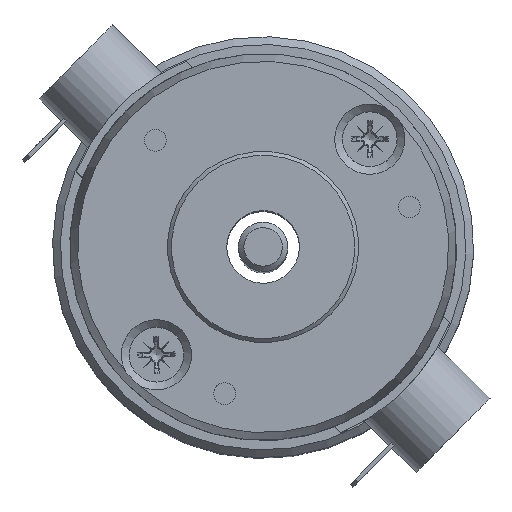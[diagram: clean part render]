
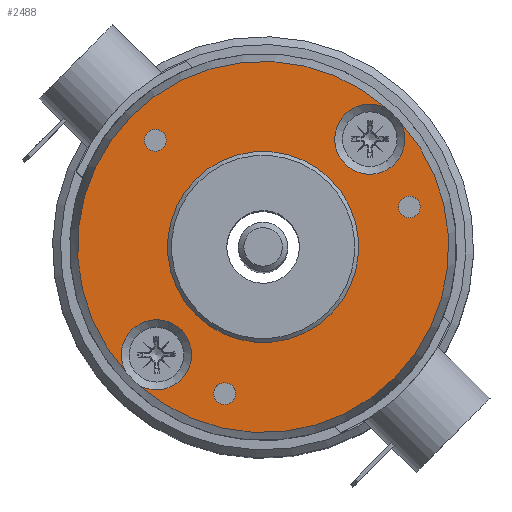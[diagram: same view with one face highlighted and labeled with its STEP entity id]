
A CAD part, top view. The second image highlights one B-rep face of the part: STEP entity #2488.
In plain terms, the highlighted planar face has unit normal (0, 0, 1).
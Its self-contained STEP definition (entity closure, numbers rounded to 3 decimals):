
#136=FACE_BOUND('',#767,.T.);
#137=FACE_BOUND('',#768,.T.);
#138=FACE_BOUND('',#769,.T.);
#139=FACE_BOUND('',#770,.T.);
#618=FACE_OUTER_BOUND('',#766,.T.);
#766=EDGE_LOOP('',(#1723,#1724,#1725,#1726));
#767=EDGE_LOOP('',(#1727,#1728));
#768=EDGE_LOOP('',(#1729,#1730));
#769=EDGE_LOOP('',(#1731,#1732));
#770=EDGE_LOOP('',(#1733));
#950=CIRCLE('',#2903,1.4);
#951=CIRCLE('',#2904,1.4);
#952=CIRCLE('',#2906,1.4);
#953=CIRCLE('',#2907,1.4);
#954=CIRCLE('',#2909,1.4);
#955=CIRCLE('',#2910,1.4);
#957=CIRCLE('',#2913,4.5);
#960=CIRCLE('',#2918,23.8);
#961=CIRCLE('',#2919,4.5);
#962=CIRCLE('',#2920,23.8);
#963=CIRCLE('',#2921,12.25);
#1088=VERTEX_POINT('',#4028);
#1089=VERTEX_POINT('',#4030);
#1090=VERTEX_POINT('',#4034);
#1091=VERTEX_POINT('',#4036);
#1092=VERTEX_POINT('',#4040);
#1093=VERTEX_POINT('',#4042);
#1097=VERTEX_POINT('',#4051);
#1098=VERTEX_POINT('',#4056);
#1100=VERTEX_POINT('',#4068);
#1101=VERTEX_POINT('',#4070);
#1102=VERTEX_POINT('',#4073);
#1332=EDGE_CURVE('',#1089,#1088,#950,.T.);
#1333=EDGE_CURVE('',#1088,#1089,#951,.T.);
#1335=EDGE_CURVE('',#1091,#1090,#952,.T.);
#1336=EDGE_CURVE('',#1090,#1091,#953,.T.);
#1338=EDGE_CURVE('',#1093,#1092,#954,.T.);
#1339=EDGE_CURVE('',#1092,#1093,#955,.T.);
#1343=EDGE_CURVE('',#1098,#1097,#957,.T.);
#1348=EDGE_CURVE('',#1100,#1097,#960,.T.);
#1349=EDGE_CURVE('',#1100,#1101,#961,.T.);
#1350=EDGE_CURVE('',#1098,#1101,#962,.T.);
#1351=EDGE_CURVE('',#1102,#1102,#963,.T.);
#1723=ORIENTED_EDGE('',*,*,#1343,.T.);
#1724=ORIENTED_EDGE('',*,*,#1348,.F.);
#1725=ORIENTED_EDGE('',*,*,#1349,.T.);
#1726=ORIENTED_EDGE('',*,*,#1350,.F.);
#1727=ORIENTED_EDGE('',*,*,#1332,.T.);
#1728=ORIENTED_EDGE('',*,*,#1333,.T.);
#1729=ORIENTED_EDGE('',*,*,#1335,.T.);
#1730=ORIENTED_EDGE('',*,*,#1336,.T.);
#1731=ORIENTED_EDGE('',*,*,#1338,.T.);
#1732=ORIENTED_EDGE('',*,*,#1339,.T.);
#1733=ORIENTED_EDGE('',*,*,#1351,.T.);
#2402=PLANE('',#2917);
#2488=ADVANCED_FACE('',(#618,#136,#137,#138,#139),#2402,.F.);
#2903=AXIS2_PLACEMENT_3D('',#4031,#3245,#3246);
#2904=AXIS2_PLACEMENT_3D('',#4032,#3247,#3248);
#2906=AXIS2_PLACEMENT_3D('',#4037,#3252,#3253);
#2907=AXIS2_PLACEMENT_3D('',#4038,#3254,#3255);
#2909=AXIS2_PLACEMENT_3D('',#4043,#3259,#3260);
#2910=AXIS2_PLACEMENT_3D('',#4044,#3261,#3262);
#2913=AXIS2_PLACEMENT_3D('',#4057,#3268,#3269);
#2917=AXIS2_PLACEMENT_3D('',#4067,#3277,#3278);
#2918=AXIS2_PLACEMENT_3D('',#4069,#3279,#3280);
#2919=AXIS2_PLACEMENT_3D('',#4071,#3281,#3282);
#2920=AXIS2_PLACEMENT_3D('',#4072,#3283,#3284);
#2921=AXIS2_PLACEMENT_3D('',#4074,#3285,#3286);
#3245=DIRECTION('center_axis',(0.,0.,-1.));
#3246=DIRECTION('ref_axis',(-0.5,-0.866,0.));
#3247=DIRECTION('center_axis',(0.,0.,-1.));
#3248=DIRECTION('ref_axis',(-0.5,-0.866,0.));
#3252=DIRECTION('center_axis',(0.,0.,-1.));
#3253=DIRECTION('ref_axis',(-0.5,0.866,0.));
#3254=DIRECTION('center_axis',(0.,0.,-1.));
#3255=DIRECTION('ref_axis',(-0.5,0.866,0.));
#3259=DIRECTION('center_axis',(0.,0.,-1.));
#3260=DIRECTION('ref_axis',(1.,0.,0.));
#3261=DIRECTION('center_axis',(0.,0.,-1.));
#3262=DIRECTION('ref_axis',(1.,0.,0.));
#3268=DIRECTION('center_axis',(0.,0.,-1.));
#3269=DIRECTION('ref_axis',(-1.,0.,0.));
#3277=DIRECTION('center_axis',(0.,0.,-1.));
#3278=DIRECTION('ref_axis',(-1.,0.,0.));
#3279=DIRECTION('center_axis',(0.,0.,-1.));
#3280=DIRECTION('ref_axis',(-1.,0.,0.));
#3281=DIRECTION('center_axis',(0.,0.,-1.));
#3282=DIRECTION('ref_axis',(1.,0.,0.));
#3283=DIRECTION('center_axis',(0.,0.,-1.));
#3284=DIRECTION('ref_axis',(-1.,0.,0.));
#3285=DIRECTION('center_axis',(0.,0.,-1.));
#3286=DIRECTION('ref_axis',(-1.,0.,0.));
#4028=CARTESIAN_POINT('',(17.54,-8.51,20.));
#4030=CARTESIAN_POINT('',(16.14,-10.935,20.));
#4031=CARTESIAN_POINT('Origin',(16.84,-9.722,20.));
#4032=CARTESIAN_POINT('Origin',(16.84,-9.722,20.));
#4034=CARTESIAN_POINT('',(-16.14,-10.935,20.));
#4036=CARTESIAN_POINT('',(-17.54,-8.51,20.));
#4037=CARTESIAN_POINT('Origin',(-16.84,-9.723,20.));
#4038=CARTESIAN_POINT('Origin',(-16.84,-9.723,20.));
#4040=CARTESIAN_POINT('',(-1.4,19.445,20.));
#4042=CARTESIAN_POINT('',(1.4,19.445,20.));
#4043=CARTESIAN_POINT('Origin',(0.,19.445,20.));
#4044=CARTESIAN_POINT('Origin',(0.,19.445,20.));
#4051=CARTESIAN_POINT('',(23.767,1.253,20.));
#4056=CARTESIAN_POINT('',(23.767,-1.253,20.));
#4057=CARTESIAN_POINT('Origin',(19.445,0.,20.));
#4067=CARTESIAN_POINT('Origin',(0.,0.,20.));
#4068=CARTESIAN_POINT('',(-23.767,1.253,20.));
#4069=CARTESIAN_POINT('Origin',(0.,0.,20.));
#4070=CARTESIAN_POINT('',(-23.767,-1.253,20.));
#4071=CARTESIAN_POINT('Origin',(-19.445,0.,20.));
#4072=CARTESIAN_POINT('Origin',(0.,0.,20.));
#4073=CARTESIAN_POINT('',(12.25,0.,20.));
#4074=CARTESIAN_POINT('Origin',(0.,0.,20.));
